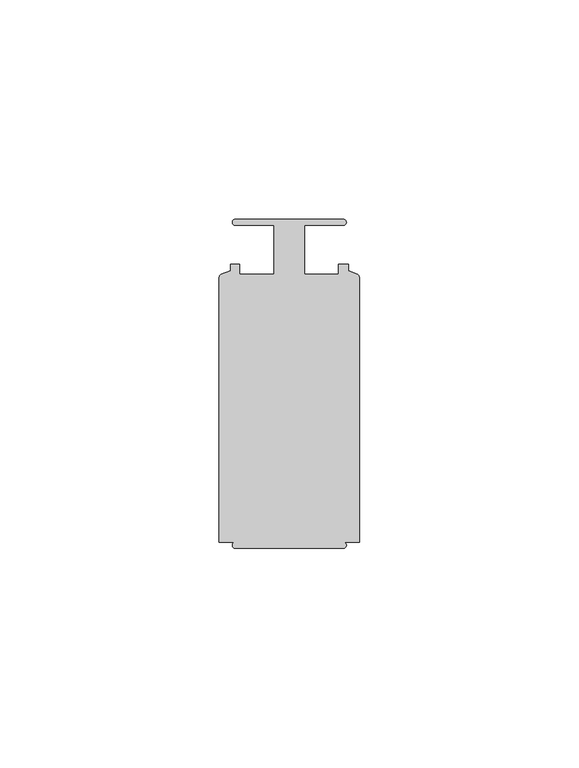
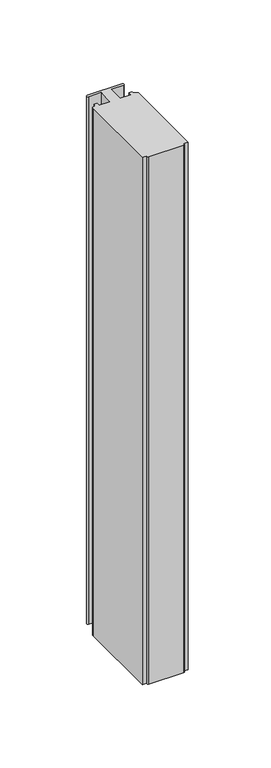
"""IFC4 building model written with IfcOpenShell, lengths in millimetres: member geometry, Прямоугольный импост : 2-AMG-1-Профиль 26Х75 Средний."""

from ifc_helpers import new_model, si_unit, point, frame, frame_2d, origin, place, context, project, spatial, polyline, circle_curve, trimmed, segment, composite_curve, outline, extrude, source, transform, mapped, element, save


def member_e98824ab(model_context):
    return source(origin(), model_context, "Body", "SweptSolid", [
        extrude(outline(composite_curve([segment(trimmed(circle_curve(frame_2d((12.2976562, 36.8)), 0.7), [point((12.2976562, 37.5))], [point((12.2976562, 36.1))], False, "CARTESIAN"), True, "CONTINUOUS"), segment(polyline([(12.2976562, 36.1), (3.4976562, 36.1), (3.4976562, 25.0), (11.2193767, 25.0), (11.2193767, 27.25), (13.4446403, 27.25), (13.4446403, 25.836597), (15.5172539, 24.9333875)]), True, "CONTINUOUS"), segment(trimmed(circle_curve(frame_2d((15.1976562, 24.2)), 0.8), [point((15.5172539, 24.9333875))], [point((15.9976562, 24.2))], False, "CARTESIAN"), True, "CONTINUOUS"), segment(polyline([(15.9976562, 24.2), (15.9976562, -36.1), (12.295789, -36.1)]), True, "CONTINUOUS"), segment(trimmed(circle_curve(frame_2d((12.295789, -36.8)), 0.7), [point((12.295789, -36.1))], [point((12.295789, -37.5))], False, "CARTESIAN"), True, "CONTINUOUS"), segment(polyline([(12.295789, -37.5), (-12.3004766, -37.5)]), True, "CONTINUOUS"), segment(trimmed(circle_curve(frame_2d((-12.3004766, -36.8)), 0.7), [point((-12.3004766, -37.5))], [point((-12.3004766, -36.1))], False, "CARTESIAN"), True, "CONTINUOUS"), segment(polyline([(-12.3004766, -36.1), (-16.0023438, -36.1), (-16.0023438, 24.2)]), True, "CONTINUOUS"), segment(trimmed(circle_curve(frame_2d((-15.2023438, 24.2)), 0.8), [point((-16.0023438, 24.2))], [point((-15.5219415, 24.9333875))], False, "CARTESIAN"), True, "CONTINUOUS"), segment(polyline([(-15.5219415, 24.9333875), (-13.4493278, 25.836597), (-13.4493278, 27.25), (-11.2993767, 27.25), (-11.2993767, 25.0), (-3.5023438, 25.0), (-3.5023438, 36.1), (-12.3023438, 36.1)]), True, "CONTINUOUS"), segment(trimmed(circle_curve(frame_2d((-12.3023438, 36.8)), 0.7), [point((-12.3023438, 36.1))], [point((-12.3023438, 37.5))], False, "CARTESIAN"), True, "CONTINUOUS"), segment(polyline([(-12.3023438, 37.5), (12.2976562, 37.5)]), True, "CONTINUOUS")], self_intersect=False)), frame((0.0, 0.0, -392.0023438), z_axis=(0.0, 0.0, 1.0), x_axis=(1.0, 0.0, 0.0)), (0.0, 0.0, 1.0), 392.0023438),
    ])


if __name__ == "__main__":
    model = new_model("IFC4")
    model_context = context("Model", 3, world=origin())
    ifc_project = project(units=[si_unit("LENGTHUNIT", "METRE", prefix="MILLI")], contexts=[model_context])
    site = spatial("IfcSite", under=ifc_project)
    building = spatial("IfcBuilding", under=site)
    placement = place(None, origin())
    member_shape = member_e98824ab(model_context)
    element("IfcMember", 1, ObjectType="Прямоугольный импост : 2-AMG-1-Профиль 26Х75 Средний", at=placement, inside=building, context=model_context, shape_type="MappedRepresentation", body=[
        mapped(member_shape, transform((0.0, 0.0, 0.0), x_axis=(1.0, 0.0, 0.0), y_axis=(0.0, 1.0, 0.0), z_axis=(0.0, 0.0, 1.0))),
    ])
    save(model, "model.ifc")
